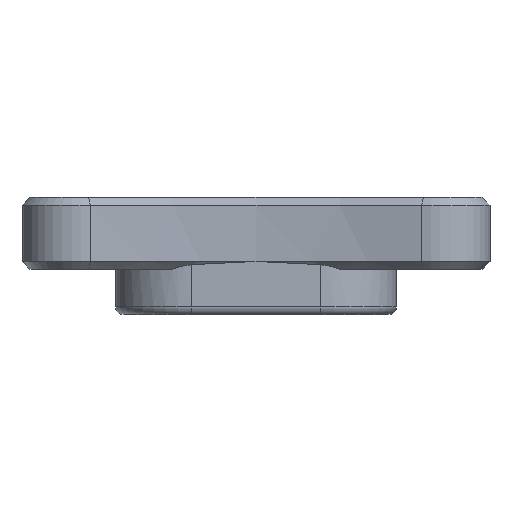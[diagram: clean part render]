
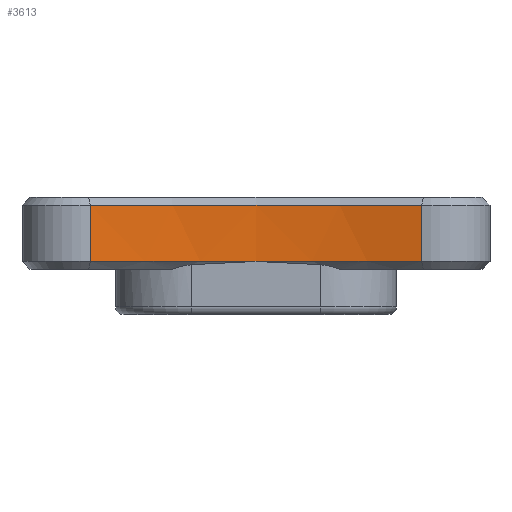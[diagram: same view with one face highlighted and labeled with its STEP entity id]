
A CAD part, left-side view. The second image highlights one B-rep face of the part: STEP entity #3613.
In plain terms, the highlighted cylindrical face has radius 41.333 mm (diameter 82.667 mm), a partial arc.
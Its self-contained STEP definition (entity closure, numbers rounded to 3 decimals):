
#283=FACE_OUTER_BOUND('',#515,.T.);
#515=EDGE_LOOP('',(#2650,#2651,#2652,#2653,#2654));
#758=LINE('',#5740,#1079);
#759=LINE('',#5741,#1080);
#1079=VECTOR('',#4572,10.);
#1080=VECTOR('',#4573,10.);
#1380=CIRCLE('',#3881,41.333);
#1381=CIRCLE('',#3883,41.333);
#1399=CIRCLE('',#3908,41.333);
#1591=VERTEX_POINT('',#5620);
#1594=VERTEX_POINT('',#5631);
#1597=VERTEX_POINT('',#5644);
#1614=VERTEX_POINT('',#5692);
#1616=VERTEX_POINT('',#5698);
#1956=EDGE_CURVE('',#1594,#1591,#1380,.T.);
#1959=EDGE_CURVE('',#1591,#1597,#1381,.T.);
#1986=EDGE_CURVE('',#1616,#1614,#1399,.T.);
#2007=EDGE_CURVE('',#1616,#1597,#758,.T.);
#2008=EDGE_CURVE('',#1614,#1594,#759,.T.);
#2650=ORIENTED_EDGE('',*,*,#1986,.F.);
#2651=ORIENTED_EDGE('',*,*,#2007,.T.);
#2652=ORIENTED_EDGE('',*,*,#1959,.F.);
#2653=ORIENTED_EDGE('',*,*,#1956,.F.);
#2654=ORIENTED_EDGE('',*,*,#2008,.F.);
#3511=CYLINDRICAL_SURFACE('',#3931,41.333);
#3613=ADVANCED_FACE('',(#283),#3511,.F.);
#3881=AXIS2_PLACEMENT_3D('',#5633,#4453,#4454);
#3883=AXIS2_PLACEMENT_3D('',#5645,#4457,#4458);
#3908=AXIS2_PLACEMENT_3D('',#5700,#4515,#4516);
#3931=AXIS2_PLACEMENT_3D('',#5739,#4570,#4571);
#4453=DIRECTION('center_axis',(0.,0.,1.));
#4454=DIRECTION('ref_axis',(0.967,-0.257,0.));
#4457=DIRECTION('center_axis',(0.,0.,1.));
#4458=DIRECTION('ref_axis',(0.967,-0.257,0.));
#4515=DIRECTION('center_axis',(0.,0.,-1.));
#4516=DIRECTION('ref_axis',(0.967,-0.257,0.));
#4570=DIRECTION('center_axis',(0.,0.,-1.));
#4571=DIRECTION('ref_axis',(0.967,-0.257,0.));
#4572=DIRECTION('',(0.,0.,-1.));
#4573=DIRECTION('',(0.,0.,-1.));
#5620=CARTESIAN_POINT('',(0.,8.991,3.4));
#5631=CARTESIAN_POINT('',(-1.383,-1.612,3.4));
#5633=CARTESIAN_POINT('Origin',(-41.333,8.991,3.4));
#5644=CARTESIAN_POINT('',(-1.383,19.593,3.4));
#5645=CARTESIAN_POINT('Origin',(-41.333,8.991,3.4));
#5692=CARTESIAN_POINT('',(-1.383,-1.612,7.));
#5698=CARTESIAN_POINT('',(-1.383,19.593,7.));
#5700=CARTESIAN_POINT('Origin',(-41.333,8.991,7.));
#5739=CARTESIAN_POINT('Origin',(-41.333,8.991,7.5));
#5740=CARTESIAN_POINT('',(-1.383,19.593,7.5));
#5741=CARTESIAN_POINT('',(-1.383,-1.612,7.5));
